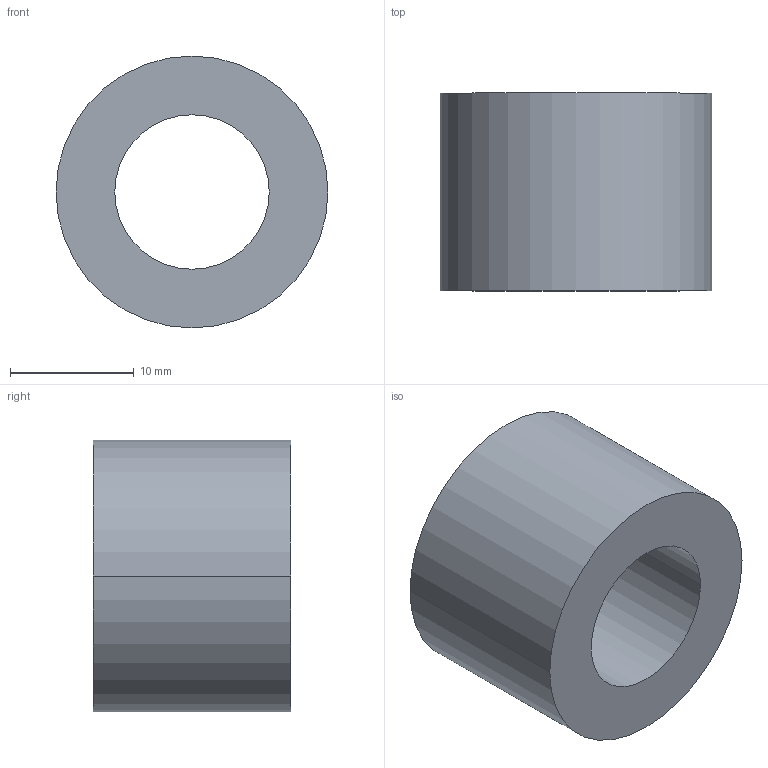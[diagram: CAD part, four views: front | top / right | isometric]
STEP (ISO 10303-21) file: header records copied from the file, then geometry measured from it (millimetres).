
FILE_DESCRIPTION (( 'STEP AP203' ), '1' );
FILE_NAME ('30800.WPP22F12.5.step', '2019-01-23T22:39:36', ( '' ), ( '' ), 'SwSTEP 2.0', 'SolidWorks 2017', '' );
FILE_SCHEMA (( 'CONFIG_CONTROL_DESIGN' ));
Length unit declared in the file: millimetre
Products named in the file (1): 30800.WPP22F12.5
Bounding box: 22 x 16 x 22 mm (x, y, z)
Volume: 4082.5 mm3; surface area: 2217.1 mm2
Topology: 1 solids, 1 shells, 8 faces, 16 edges, 10 vertices
Faces by surface type: cylinder 4, torus 2, plane 2
Entity records: 297 total; most frequent: DIRECTION 46, CARTESIAN_POINT 35, ORIENTED_EDGE 32, AXIS2_PLACEMENT_3D 21, EDGE_CURVE 16, CIRCLE 12, VERTEX_POINT 10, EDGE_LOOP 10
